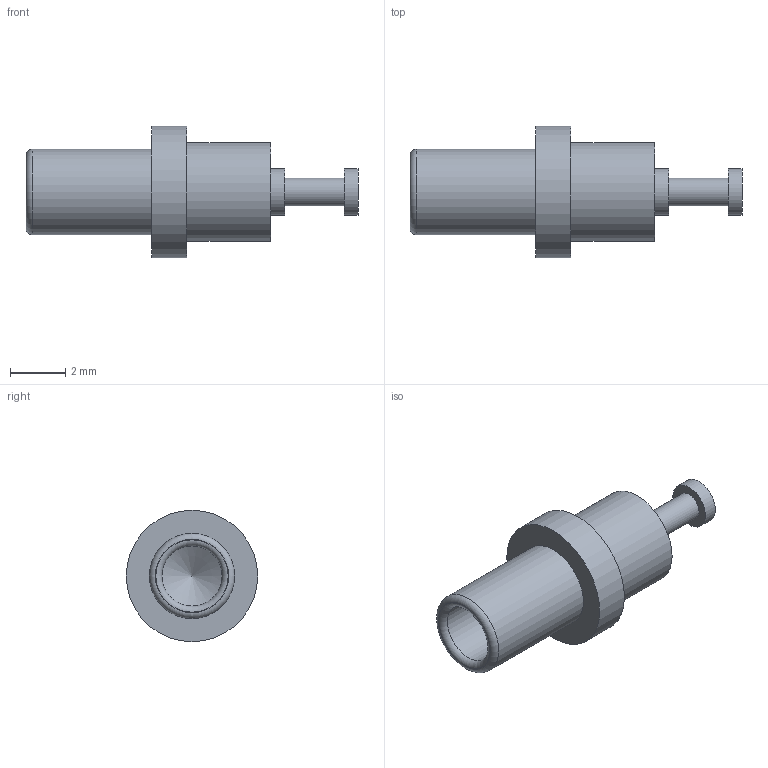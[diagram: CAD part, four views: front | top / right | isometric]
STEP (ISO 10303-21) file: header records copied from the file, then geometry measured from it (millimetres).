
FILE_DESCRIPTION(/* description */ (''),/* implementation_level */ '2;1');
FILE_NAME(/* name */ '\\Snap1\dwgs\Customer 3D Models\450\450-3324-03 Customer model.stp',/* time_stamp */ '2016-12-13T17:54:02+00:00',/* author */ ('paulk'),/* organization */ (''),/* preprocessor_version */ 'ST-DEVELOPER v15.2',/* originating_system */ 'Autodesk Inventor 2014',/* authorisation */ '');
FILE_SCHEMA (('CONFIG_CONTROL_DESIGN'));
Length unit declared in the file: millimetre
Products named in the file (1): 450-3324-03 Customer model
Bounding box: 12.06 x 4.78 x 4.78 mm (x, y, z)
Volume: 68.7 mm3; surface area: 190.7 mm2
Topology: 1 solids, 1 shells, 17 faces, 28 edges, 17 vertices
Faces by surface type: cylinder 7, plane 6, torus 2, cone 2
Full cylindrical faces by diameter (mm): 1.016 x1, 1.676 x2, 2.184 x1, 3.099 x1, 3.581 x1, 4.775 x1
Entity records: 355 total; most frequent: DIRECTION 68, CARTESIAN_POINT 50, AXIS2_PLACEMENT_3D 34, EDGE_LOOP 32, ORIENTED_EDGE 32, FACE_BOUND 17, ADVANCED_FACE 17, CIRCLE 16
